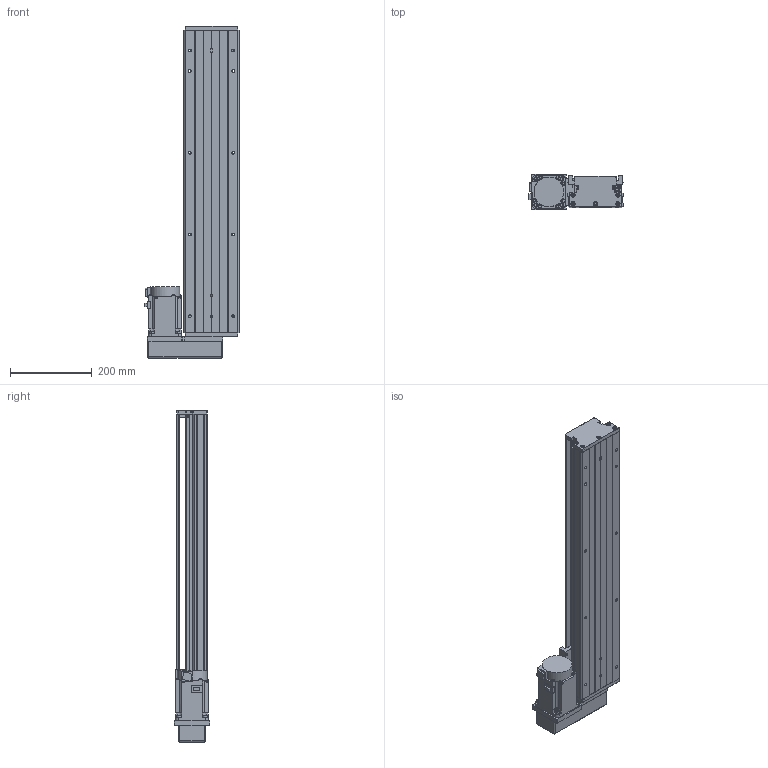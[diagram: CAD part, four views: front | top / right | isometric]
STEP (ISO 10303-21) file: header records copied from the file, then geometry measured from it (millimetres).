
FILE_DESCRIPTION (( 'STEP AP203' ), '1' );
FILE_NAME ('KTH130-600-BL-M75-C4.step', '2023-06-30T04:26:09', ( '微软用户' ), ( '微软中国' ), 'SwSTEP 2.0', 'SolidWorks 2020', '' );
FILE_SCHEMA (( 'CONFIG_CONTROL_DESIGN' ));
Length unit declared in the file: millimetre
Products named in the file (18): GTH14-001_600; CTHA60-017; hg-kn73j_-s100; KTH130-002_KTH130-002; EE_SX911P_R; CTHA86-015-3_CTHA86-015-4; KTH130-004; CTHA60-016; CTHA86-035; KTH130-005; GBT 70.1-M3℅5; KTH130-600-BL-M75-C4; GB1155-6X6; GBT77-2000 M3×3; GBT70.1 M5℅16; す晦芛蹟隊 M3℅5; GBT 70.2-M3¡Á5_M3¡Á6; GBT 70.3-M3℅8
Assembly tree (49 placements, depth 2):
  KTH130-600-BL-M75-C4
    GTH14-001_600
    KTH130-002_KTH130-002
    KTH130-004
    KTH130-005
    GB1155-6X6  x2
    GBT70.1 M5℅16  x10
    GBT 70.2-M3¡Á5_M3¡Á6  x4
    CTHA60-017  x3
    EE_SX911P_R  x3
    CTHA60-016  x2
    GBT 70.1-M3℅5  x6
    GBT77-2000 M3×3  x6
    す晦芛蹟隊 M3℅5  x2
    GBT 70.3-M3℅8  x4
    hg-kn73j_-s100
    CTHA86-015-3_CTHA86-015-4
    CTHA86-035
Bounding box: 230.3 x 87 x 812 mm (x, y, z)
Volume: 5463831.7 mm3; surface area: 788348.3 mm2
Topology: 52 solids, 52 shells, 2192 faces, 5316 edges, 3327 vertices
Faces by surface type: plane 1208, cylinder 630, cone 238, torus 100, sphere 16
Entity records: 39945 total; most frequent: CARTESIAN_POINT 6722, DIRECTION 6577, ORIENTED_EDGE 6136, EDGE_CURVE 3068, AXIS2_PLACEMENT_3D 2300, LINE 1977, VECTOR 1977, VERTEX_POINT 1961
